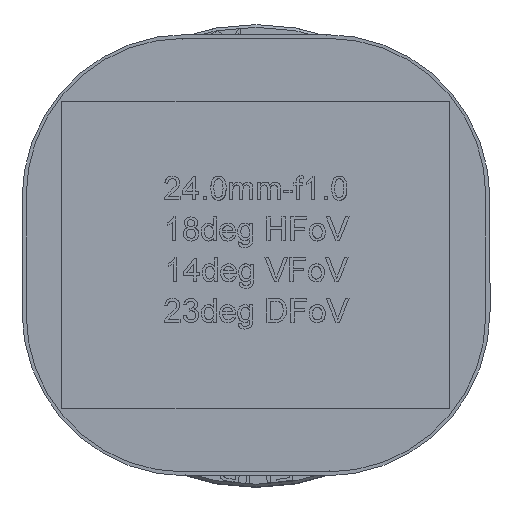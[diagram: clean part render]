
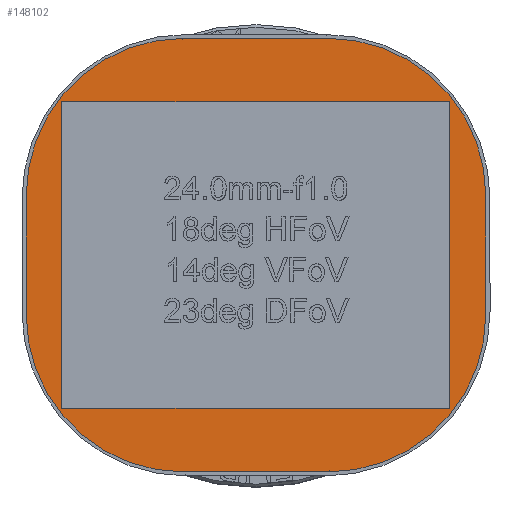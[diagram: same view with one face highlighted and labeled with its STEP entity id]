
A CAD part, top view. The second image highlights one B-rep face of the part: STEP entity #148102.
In plain terms, the highlighted planar face has unit normal (0, 0, 1).
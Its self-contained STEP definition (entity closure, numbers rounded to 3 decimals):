
#334 = LINE ( 'NONE', #523, #150158 ) ;
#523 = CARTESIAN_POINT ( 'NONE',  ( -16.902, -4.375, 55.8 ) ) ;
#2561 = EDGE_CURVE ( 'NONE', #192057, #11462, #78285, .T. ) ;
#6993 = CARTESIAN_POINT ( 'NONE',  ( 5.337, 4.375, 55.8 ) ) ;
#7271 = CARTESIAN_POINT ( 'NONE',  ( -5.337, 4.375, 55.8 ) ) ;
#8238 = FACE_OUTER_BOUND ( 'NONE', #173271, .T. ) ;
#10808 = VECTOR ( 'NONE', #50012, 1000. ) ;
#11141 = EDGE_CURVE ( 'NONE', #46218, #174126, #189619, .T. ) ;
#11462 = VERTEX_POINT ( 'NONE', #111125 ) ;
#12855 = CARTESIAN_POINT ( 'NONE',  ( -5.337, -4.375, 55.8 ) ) ;
#13150 = LINE ( 'NONE', #169959, #137625 ) ;
#13237 = EDGE_CURVE ( 'NONE', #186278, #192057, #13150, .T. ) ;
#13814 = ORIENTED_EDGE ( 'NONE', *, *, #137694, .T. ) ;
#15211 = LINE ( 'NONE', #144801, #182840 ) ;
#17338 = CARTESIAN_POINT ( 'NONE',  ( 5.337, 15.94, 55.8 ) ) ;
#21338 = CARTESIAN_POINT ( 'NONE',  ( -5.337, 15.94, 55.8 ) ) ;
#23236 = DIRECTION ( 'NONE',  ( -1., 0., 0. ) ) ;
#23510 = DIRECTION ( 'NONE',  ( -1., 0., 0. ) ) ;
#23932 = ORIENTED_EDGE ( 'NONE', *, *, #146052, .T. ) ;
#25506 = ORIENTED_EDGE ( 'NONE', *, *, #161218, .F. ) ;
#25515 = VERTEX_POINT ( 'NONE', #171311 ) ;
#29125 = DIRECTION ( 'NONE',  ( 1., 0., 0. ) ) ;
#29652 = CARTESIAN_POINT ( 'NONE',  ( 16.902, 4.375, 55.8 ) ) ;
#30338 = CARTESIAN_POINT ( 'NONE',  ( 5.337, -4.375, 55.8 ) ) ;
#31370 = CARTESIAN_POINT ( 'NONE',  ( -16.902, 4.375, 55.8 ) ) ;
#31898 = EDGE_CURVE ( 'NONE', #35865, #145875, #156384, .T. ) ;
#35865 = VERTEX_POINT ( 'NONE', #165708 ) ;
#40055 = DIRECTION ( 'NONE',  ( -1., 0., 0. ) ) ;
#40678 = EDGE_CURVE ( 'NONE', #11462, #25515, #74319, .T. ) ;
#42262 = AXIS2_PLACEMENT_3D ( 'NONE', #7271, #120708, #23510 ) ;
#42726 = DIRECTION ( 'NONE',  ( 0., -1., 0. ) ) ;
#43632 = AXIS2_PLACEMENT_3D ( 'NONE', #12855, #126345, #29125 ) ;
#46218 = VERTEX_POINT ( 'NONE', #132930 ) ;
#46748 = DIRECTION ( 'NONE',  ( 1., 0., 0. ) ) ;
#47752 = EDGE_LOOP ( 'NONE', ( #184982, #25506, #80779, #120732 ) ) ;
#50012 = DIRECTION ( 'NONE',  ( 0., 1., 0. ) ) ;
#52937 = ORIENTED_EDGE ( 'NONE', *, *, #66798, .T. ) ;
#54628 = CARTESIAN_POINT ( 'NONE',  ( 0., -11.275, 55.8 ) ) ;
#61020 = CARTESIAN_POINT ( 'NONE',  ( 5.337, 4.375, 55.8 ) ) ;
#66798 = EDGE_CURVE ( 'NONE', #173345, #82329, #133025, .T. ) ;
#67840 = VECTOR ( 'NONE', #183902, 1000. ) ;
#68038 = ORIENTED_EDGE ( 'NONE', *, *, #125398, .T. ) ;
#69214 = VECTOR ( 'NONE', #70826, 1000. ) ;
#70826 = DIRECTION ( 'NONE',  ( 1., 0., 0. ) ) ;
#72363 = EDGE_CURVE ( 'NONE', #83938, #173345, #93466, .T. ) ;
#74319 = LINE ( 'NONE', #54628, #69214 ) ;
#77211 = DIRECTION ( 'NONE',  ( -1., 0., 0. ) ) ;
#78285 = LINE ( 'NONE', #92279, #202855 ) ;
#79162 = ORIENTED_EDGE ( 'NONE', *, *, #126306, .T. ) ;
#80168 = DIRECTION ( 'NONE',  ( 1., 0., 0. ) ) ;
#80779 = ORIENTED_EDGE ( 'NONE', *, *, #40678, .F. ) ;
#82329 = VERTEX_POINT ( 'NONE', #29652 ) ;
#83938 = VERTEX_POINT ( 'NONE', #177386 ) ;
#92279 = CARTESIAN_POINT ( 'NONE',  ( -14.286, 0., 55.8 ) ) ;
#93466 = CIRCLE ( 'NONE', #143098, 11.565 ) ;
#94596 = CIRCLE ( 'NONE', #173984, 11.565 ) ;
#94856 = VECTOR ( 'NONE', #149222, 1000. ) ;
#97020 = LINE ( 'NONE', #195388, #10808 ) ;
#98435 = VERTEX_POINT ( 'NONE', #17338 ) ;
#99537 = ORIENTED_EDGE ( 'NONE', *, *, #72363, .T. ) ;
#104681 = CARTESIAN_POINT ( 'NONE',  ( 14.242, 11.275, 55.8 ) ) ;
#111125 = CARTESIAN_POINT ( 'NONE',  ( -14.286, -11.275, 55.8 ) ) ;
#116536 = CARTESIAN_POINT ( 'NONE',  ( 16.902, 4.375, 55.8 ) ) ;
#120433 = DIRECTION ( 'NONE',  ( 0., 0., -1. ) ) ;
#120708 = DIRECTION ( 'NONE',  ( 0., 0., 1. ) ) ;
#120732 = ORIENTED_EDGE ( 'NONE', *, *, #2561, .F. ) ;
#125398 = EDGE_CURVE ( 'NONE', #145875, #46218, #334, .T. ) ;
#126306 = EDGE_CURVE ( 'NONE', #174126, #83938, #15211, .T. ) ;
#126345 = DIRECTION ( 'NONE',  ( 0., 0., 1. ) ) ;
#128898 = DIRECTION ( 'NONE',  ( 0., -1., 0. ) ) ;
#132930 = CARTESIAN_POINT ( 'NONE',  ( -16.902, -4.375, 55.8 ) ) ;
#133025 = LINE ( 'NONE', #116536, #94856 ) ;
#136335 = CARTESIAN_POINT ( 'NONE',  ( 16.902, -4.375, 55.8 ) ) ;
#137475 = CARTESIAN_POINT ( 'NONE',  ( -5.337, -15.94, 55.8 ) ) ;
#137625 = VECTOR ( 'NONE', #40055, 1000. ) ;
#137671 = FACE_BOUND ( 'NONE', #47752, .T. ) ;
#137694 = EDGE_CURVE ( 'NONE', #82329, #98435, #94596, .T. ) ;
#142219 = AXIS2_PLACEMENT_3D ( 'NONE', #6993, #120433, #23236 ) ;
#143098 = AXIS2_PLACEMENT_3D ( 'NONE', #30338, #143914, #46748 ) ;
#143914 = DIRECTION ( 'NONE',  ( 0., 0., 1. ) ) ;
#144801 = CARTESIAN_POINT ( 'NONE',  ( 5.337, -15.94, 55.8 ) ) ;
#145875 = VERTEX_POINT ( 'NONE', #31370 ) ;
#146052 = EDGE_CURVE ( 'NONE', #98435, #35865, #192284, .T. ) ;
#148102 = ADVANCED_FACE ( 'NONE', ( #8238, #137671 ), #152372, .F. ) ;
#149222 = DIRECTION ( 'NONE',  ( 0., 1., 0. ) ) ;
#150158 = VECTOR ( 'NONE', #128898, 1000. ) ;
#152372 = PLANE ( 'NONE',  #142219 ) ;
#153470 = ORIENTED_EDGE ( 'NONE', *, *, #11141, .T. ) ;
#156384 = CIRCLE ( 'NONE', #42262, 11.565 ) ;
#158725 = CARTESIAN_POINT ( 'NONE',  ( -14.286, 11.275, 55.8 ) ) ;
#161218 = EDGE_CURVE ( 'NONE', #25515, #186278, #97020, .T. ) ;
#165708 = CARTESIAN_POINT ( 'NONE',  ( -5.337, 15.94, 55.8 ) ) ;
#169959 = CARTESIAN_POINT ( 'NONE',  ( 0., 11.275, 55.8 ) ) ;
#171311 = CARTESIAN_POINT ( 'NONE',  ( 14.242, -11.275, 55.8 ) ) ;
#173271 = EDGE_LOOP ( 'NONE', ( #13814, #23932, #197866, #68038, #153470, #79162, #99537, #52937 ) ) ;
#173345 = VERTEX_POINT ( 'NONE', #136335 ) ;
#173984 = AXIS2_PLACEMENT_3D ( 'NONE', #61020, #174593, #77211 ) ;
#174126 = VERTEX_POINT ( 'NONE', #137475 ) ;
#174593 = DIRECTION ( 'NONE',  ( 0., 0., 1. ) ) ;
#177386 = CARTESIAN_POINT ( 'NONE',  ( 5.337, -15.94, 55.8 ) ) ;
#182840 = VECTOR ( 'NONE', #80168, 1000. ) ;
#183902 = DIRECTION ( 'NONE',  ( -1., 0., 0. ) ) ;
#184982 = ORIENTED_EDGE ( 'NONE', *, *, #13237, .F. ) ;
#186278 = VERTEX_POINT ( 'NONE', #104681 ) ;
#189619 = CIRCLE ( 'NONE', #43632, 11.565 ) ;
#192057 = VERTEX_POINT ( 'NONE', #158725 ) ;
#192284 = LINE ( 'NONE', #21338, #67840 ) ;
#195388 = CARTESIAN_POINT ( 'NONE',  ( 14.242, 11.275, 55.8 ) ) ;
#197866 = ORIENTED_EDGE ( 'NONE', *, *, #31898, .T. ) ;
#202855 = VECTOR ( 'NONE', #42726, 1000. ) ;
